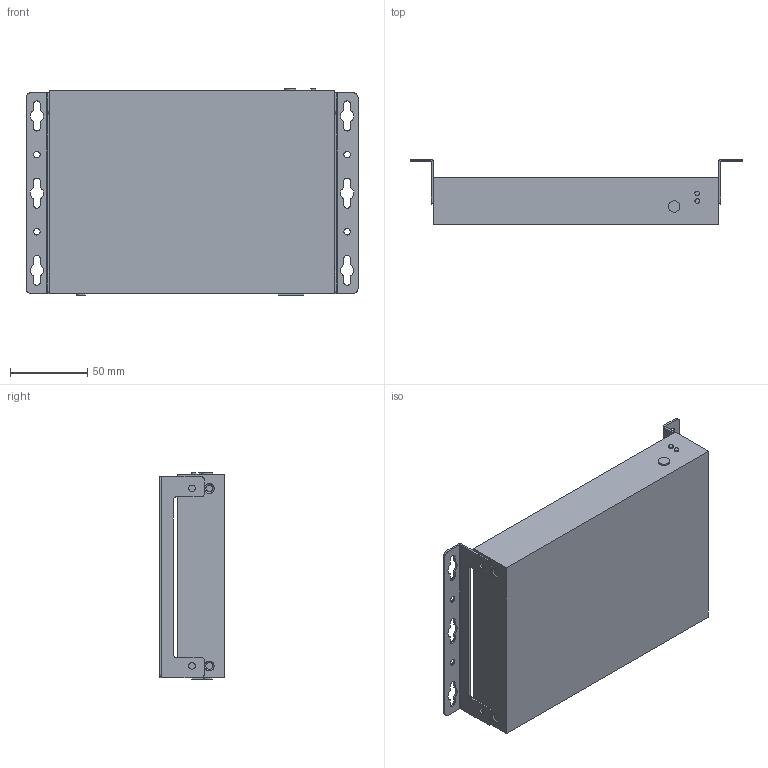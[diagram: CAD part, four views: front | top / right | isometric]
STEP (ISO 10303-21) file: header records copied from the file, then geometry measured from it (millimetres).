
FILE_DESCRIPTION (( 'STEP AP214' ), '1' );
FILE_NAME ('FG-901651-3D (UNDER SURFACE).STEP', '2026-05-19T19:59:31', ( '' ), ( '' ), 'SwSTEP 2.0', 'SolidWorks 2023', '' );
FILE_SCHEMA (( 'AUTOMOTIVE_DESIGN' ));
Length unit declared in the file: millimetre
Products named in the file (3): FG-3D_DECODER; FG-901651-3D (UNDER SURFACE); CH-008359-02
Assembly tree (3 placements, depth 2):
  FG-901651-3D (UNDER SURFACE)
    FG-3D_DECODER
    CH-008359-02  x2
Bounding box: 215 x 42.46 x 133.5 mm (x, y, z)
Volume: 747260.1 mm3; surface area: 85691.8 mm2
Topology: 3 solids, 3 shells, 1965 faces, 4088 edges, 2720 vertices
Faces by surface type: cylinder 1221, plane 728, cone 16
Entity records: 51611 total; most frequent: DIRECTION 10147, CARTESIAN_POINT 8439, ORIENTED_EDGE 7838, AXIS2_PLACEMENT_3D 4318, EDGE_CURVE 3919, VERTEX_POINT 2610, EDGE_LOOP 2509, CIRCLE 2408
